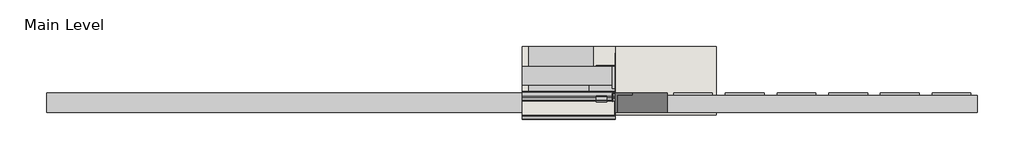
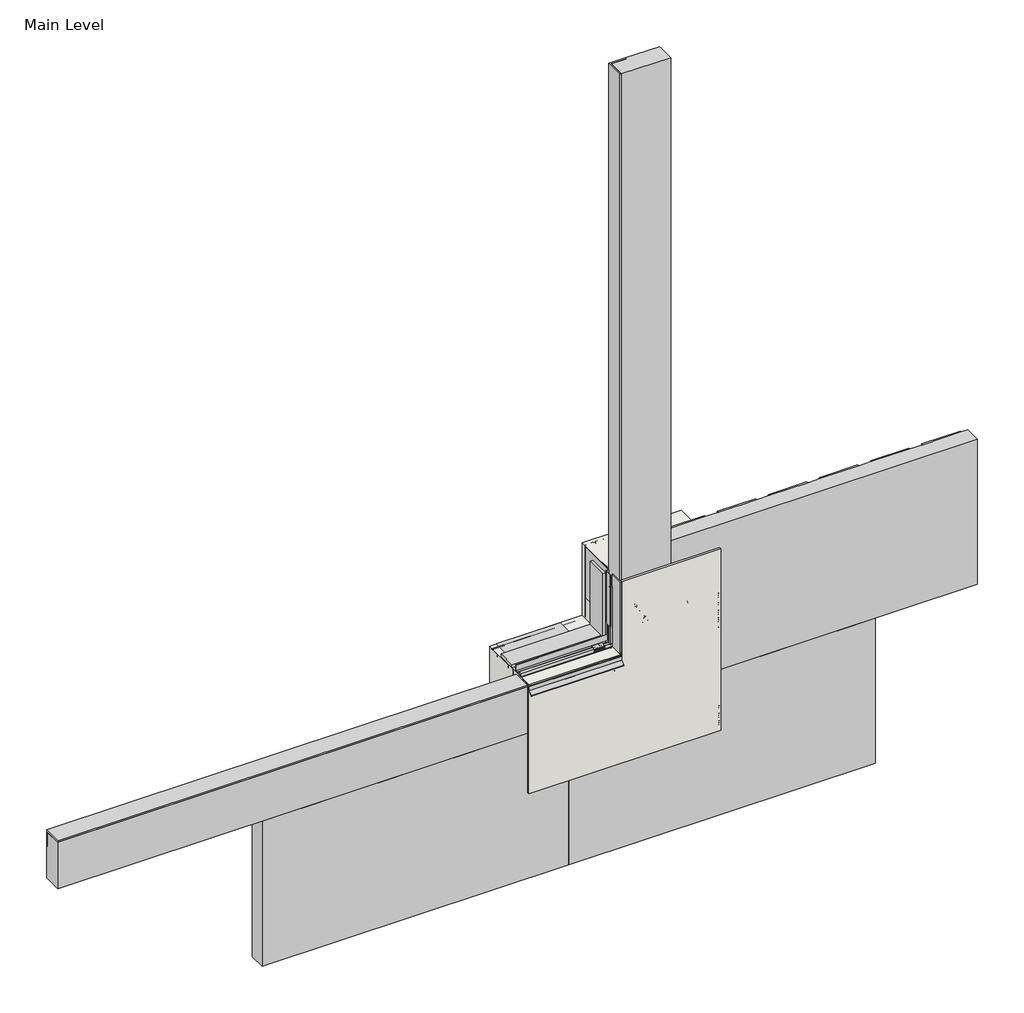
# One storey, incomplete: 26 proxies, 1 wall.
"""IFC4 building model written with IfcOpenShell, lengths in millimetres."""

from ifc_helpers import new_model, si_unit, frame, origin, place, context, project, spatial, polyline, outline, extrude, transform, mapped, element, save
from components import generic_models_31547c53, generic_models_d28646c3, generic_models_4f6b713c, generic_models_388356b2, generic_models_2850309d, generic_models_672f9cdd, generic_models_9b4c3a2c, generic_models_3fb7d6d8, generic_models_8c792c9c, proxy_4c3b85e5, proxy_c7e97176, proxy_8bbb4755, proxy_215900e5, finish_coat_filler_finish_coat_filler_41560683, masonry_sill_masonry_sill_4dd9155f, masonry_sill1_masonry_sill_5b392f48, masonry_sill3_masonry_sill_9eb3d358, masonry_sill4_masonry_sill_9228ef93, proxy_a3fd9b0b, proxy_3a0ad636, proxy_0073da47, proxy_6f3203ff, window_header_window_header_abd4ef46, wood_blocking_5320d369

model = new_model("IFC4")

# Units and contexts
model_context = context("Model", 3, world=origin())
ifc_project = project(units=[si_unit("LENGTHUNIT", "METRE", prefix="MILLI")], contexts=[model_context])

# Site, building, storey
site = spatial("IfcSite", under=ifc_project)
building = spatial("IfcBuilding", under=site)
storey = spatial("IfcBuildingStorey", under=building, Name="Main Level", Elevation=0.0)

# Proxies
placement = place(None, origin())
generic_models_shape = generic_models_31547c53(model_context)
element("IfcBuildingElementProxy", 1, Name="Durabond Generic Model Sealant Vent : Durabond Generic Model Sealant Vent", ObjectType="Durabond Generic Model Sealant Vent : Durabond Generic Model Sealant Vent", at=placement, inside=storey, context=model_context, shape_type="MappedRepresentation", body=[
    mapped(generic_models_shape, transform((26800.7195523, 590.8476543, 464.646745), x_axis=(1.0, 0.0, 0.0), y_axis=(0.0, 0.08715574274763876, -0.9961946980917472), z_axis=(0.0, 0.9961946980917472, 0.08715574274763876))),
])
generic_models_2_shape = generic_models_d28646c3(model_context)
element("IfcBuildingElementProxy", 2, Name="CRAi Generic Model Line Based Drip Deflector : CRAi Generic Model Line Based Drip Deflector", ObjectType="CRAi Generic Model Line Based Drip Deflector : CRAi Generic Model Line Based Drip Deflector", at=placement, inside=storey, context=model_context, shape_type="MappedRepresentation", body=[
    mapped(generic_models_2_shape, transform((26855.8851773, 535.1829375, 451.8088934), x_axis=(0.0, 0.996194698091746, 0.08715574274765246), y_axis=(-1.0, 0.0, 0.0), z_axis=(0.0, -0.0871557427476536, 0.996194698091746))),
])
generic_models_3_shape = generic_models_4f6b713c(model_context)
generic_models_4_shape = generic_models_388356b2(model_context)
generic_models_5_shape = generic_models_2850309d(model_context)
element("IfcBuildingElementProxy", 3, Name="CRAi Generic Model Mesh Piece Face Based : CRAi Generic Model Mesh Piece Face Based", ObjectType="CRAi Generic Model Mesh Piece Face Based : CRAi Generic Model Mesh Piece Face Based", at=placement, inside=storey, context=model_context, shape_type="MappedRepresentation", body=[
    mapped(generic_models_3_shape, transform((27052.7351773, 541.9066297, 504.9011686), x_axis=(-1.0, 0.0, 0.0), y_axis=(0.0, 0.0, -1.0), z_axis=(0.0, -1.0, 0.0))),
    mapped(generic_models_4_shape, transform((27052.7351773, 541.9066297, 504.9011686), x_axis=(-1.0, 0.0, 0.0), y_axis=(0.0, 0.0, -1.0), z_axis=(0.0, -1.0, 0.0))),
    mapped(generic_models_5_shape, transform((27052.7351773, 541.9066297, 504.9011686), x_axis=(-1.0, 0.0, 0.0), y_axis=(0.0, 0.0, -1.0), z_axis=(0.0, -1.0, 0.0))),
])
generic_models_6_shape = generic_models_672f9cdd(model_context)
generic_models_7_shape = generic_models_9b4c3a2c(model_context)
generic_models_8_shape = generic_models_3fb7d6d8(model_context)
element("IfcBuildingElementProxy", 4, Name="CRAi Generic Model Mesh Piece Face Based : CRAi Generic Model Mesh Piece Face Based", ObjectType="CRAi Generic Model Mesh Piece Face Based : CRAi Generic Model Mesh Piece Face Based", at=placement, inside=storey, context=model_context, shape_type="MappedRepresentation", body=[
    mapped(generic_models_6_shape, transform((26990.8226773, 541.9066297, 50.8), x_axis=(-1.0, 0.0, 0.0), y_axis=(0.0, 0.0, -1.0), z_axis=(0.0, -1.0, 0.0))),
    mapped(generic_models_7_shape, transform((26990.8226773, 541.9066297, 50.8), x_axis=(-1.0, 0.0, 0.0), y_axis=(0.0, 0.0, -1.0), z_axis=(0.0, -1.0, 0.0))),
    mapped(generic_models_8_shape, transform((26990.8226773, 541.9066297, 50.8), x_axis=(-1.0, 0.0, 0.0), y_axis=(0.0, 0.0, -1.0), z_axis=(0.0, -1.0, 0.0))),
])
generic_models_9_shape = generic_models_8c792c9c(model_context)
element("IfcBuildingElementProxy", 5, Name="Durabond Generic Model Screw w Standard Wall Plate : Durabond Generic Model Screw w Standard Wall Plate", ObjectType="Durabond Generic Model Screw w Standard Wall Plate : Durabond Generic Model Screw w Standard Wall Plate", at=placement, inside=storey, context=model_context, shape_type="MappedRepresentation", body=[
    mapped(generic_models_9_shape, transform((26925.7351773, 547.4628797, 622.3), x_axis=(1.0, 0.0, 0.0), y_axis=(0.0, 0.0, 1.0), z_axis=(0.0, -1.0, 0.0))),
])
element("IfcBuildingElementProxy", 6, Name="Durabond Generic Model Screw w Standard Wall Plate : Durabond Generic Model Screw w Standard Wall Plate", ObjectType="Durabond Generic Model Screw w Standard Wall Plate : Durabond Generic Model Screw w Standard Wall Plate", at=placement, inside=storey, context=model_context, shape_type="MappedRepresentation", body=[
    mapped(generic_models_9_shape, transform((26957.4851773, 544.2878797, 571.5265593), x_axis=(1.0, 0.0, 0.0), y_axis=(0.0, 0.0, 1.0), z_axis=(0.0, -1.0, 0.0))),
])
element("IfcBuildingElementProxy", 7, Name="Durabond Generic Model Screw w Standard Wall Plate : Durabond Generic Model Screw w Standard Wall Plate", ObjectType="Durabond Generic Model Screw w Standard Wall Plate : Durabond Generic Model Screw w Standard Wall Plate", at=placement, inside=storey, context=model_context, shape_type="MappedRepresentation", body=[
    mapped(generic_models_9_shape, transform((27097.1851773, 547.4628797, 622.3), x_axis=(1.0, 0.0, 0.0), y_axis=(0.0, 0.0, 1.0), z_axis=(0.0, -1.0, 0.0))),
])
element("IfcBuildingElementProxy", 8, Name="Durabond Generic Model Screw w Standard Wall Plate : Durabond Generic Model Screw w Standard Wall Plate", ObjectType="Durabond Generic Model Screw w Standard Wall Plate : Durabond Generic Model Screw w Standard Wall Plate", at=placement, inside=storey, context=model_context, shape_type="MappedRepresentation", body=[
    mapped(generic_models_9_shape, transform((27128.9351773, 544.2878797, 571.5265593), x_axis=(1.0, 0.0, 0.0), y_axis=(0.0, 0.0, 1.0), z_axis=(0.0, -1.0, 0.0))),
])
proxy_shape = proxy_4c3b85e5(model_context)
element("IfcBuildingElementProxy", 9, Name="Durabond Generic Model Insulite Select Extruded Boundary Board : 3\"", ObjectType="Durabond Generic Model Insulite Select Extruded Boundary Board : 3\"", at=placement, inside=storey, context=model_context, shape_type="MappedRepresentation", body=[
    mapped(proxy_shape, transform((25839.8851773, 624.4566297, 349.375778), x_axis=(-1.0, 0.0, 0.0), y_axis=(0.0, 0.0, -1.0), z_axis=(0.0, -1.0, 0.0))),
])
proxy_2_shape = proxy_c7e97176(model_context)
element("IfcBuildingElementProxy", 10, Name="Durabond Generic Model Insulite Select Extruded Boundary Board : 3\"", ObjectType="Durabond Generic Model Insulite Select Extruded Boundary Board : 3\"", at=placement, inside=storey, context=model_context, shape_type="MappedRepresentation", body=[
    mapped(proxy_2_shape, transform((26957.4851773, 624.4566297, 1670.175778), x_axis=(0.0, 0.0, 1.0), y_axis=(-1.0, 0.0, 0.0), z_axis=(0.0, -1.0, 0.0))),
])
proxy_3_shape = proxy_8bbb4755(model_context)
element("IfcBuildingElementProxy", 11, Name="Durabond Generic Model Insulite Select Extruded Insulation Board : 3\"", ObjectType="Durabond Generic Model Insulite Select Extruded Insulation Board : 3\"", at=placement, inside=storey, context=model_context, shape_type="MappedRepresentation", body=[
    mapped(proxy_3_shape, transform((27262.2851773, 624.4566297, -57.024222), x_axis=(1.0, 0.0, 0.0), y_axis=(0.0, 0.0, 1.0), z_axis=(0.0, -1.0, 0.0))),
])
element("IfcBuildingElementProxy", 12, Name="Durabond Generic Model Insulite Select Extruded Insulation Board : 3\"", ObjectType="Durabond Generic Model Insulite Select Extruded Insulation Board : 3\"", at=placement, inside=storey, context=model_context, shape_type="MappedRepresentation", body=[
    mapped(proxy_3_shape, transform((27668.6851773, 624.4566297, 552.575778), x_axis=(1.0, 0.0, 0.0), y_axis=(0.0, 0.0, 1.0), z_axis=(0.0, -1.0, 0.0))),
])
proxy_4_shape = proxy_215900e5(model_context)
element("IfcBuildingElementProxy", 13, Name="Durabond Generic Model Insulite Select Extruded Insulation Board : 3\"", ObjectType="Durabond Generic Model Insulite Select Extruded Insulation Board : 3\"", at=placement, inside=storey, context=model_context, shape_type="MappedRepresentation", body=[
    mapped(proxy_4_shape, transform((26043.0851773, 624.4566297, -57.024222), x_axis=(-1.0, 0.0, 0.0), y_axis=(0.0, 0.0, -1.0), z_axis=(0.0, -1.0, 0.0))),
])
finish_coat_filler_finish_coat_filler_shape = finish_coat_filler_finish_coat_filler_41560683(model_context)
element("IfcBuildingElementProxy", 14, Name="Finish Coat Filler : Finish Coat Filler", ObjectType="Finish Coat Filler : Finish Coat Filler", at=placement, inside=storey, context=model_context, shape_type="MappedRepresentation", body=[
    mapped(finish_coat_filler_finish_coat_filler_shape, transform((0.0, 0.0, 0.0), x_axis=(1.0, 0.0, 0.0), y_axis=(0.0, 1.0, 0.0), z_axis=(0.0, 0.0, 1.0))),
])
masonry_sill_masonry_sill_shape = masonry_sill_masonry_sill_4dd9155f(model_context)
element("IfcBuildingElementProxy", 15, Name="Masonry Sill : Masonry Sill", ObjectType="Masonry Sill : Masonry Sill", at=placement, inside=storey, context=model_context, shape_type="MappedRepresentation", body=[
    mapped(masonry_sill_masonry_sill_shape, transform((0.0, 0.0, 0.0), x_axis=(1.0, 0.0, 0.0), y_axis=(0.0, 1.0, 0.0), z_axis=(0.0, 0.0, 1.0))),
])
masonry_sill1_masonry_sill_shape = masonry_sill1_masonry_sill_5b392f48(model_context)
element("IfcBuildingElementProxy", 16, Name="Masonry Sill1 : Masonry Sill", ObjectType="Masonry Sill1 : Masonry Sill", at=placement, inside=storey, context=model_context, shape_type="MappedRepresentation", body=[
    mapped(masonry_sill1_masonry_sill_shape, transform((0.0, 0.0, 0.0), x_axis=(1.0, 0.0, 0.0), y_axis=(0.0, 1.0, 0.0), z_axis=(0.0, 0.0, 1.0))),
])
masonry_sill3_masonry_sill_shape = masonry_sill3_masonry_sill_9eb3d358(model_context)
element("IfcBuildingElementProxy", 17, Name="Masonry Sill3 : Masonry Sill", ObjectType="Masonry Sill3 : Masonry Sill", at=placement, inside=storey, context=model_context, shape_type="MappedRepresentation", body=[
    mapped(masonry_sill3_masonry_sill_shape, transform((0.0, 0.0, 0.0), x_axis=(1.0, 0.0, 0.0), y_axis=(0.0, 1.0, 0.0), z_axis=(0.0, 0.0, 1.0))),
])
masonry_sill4_masonry_sill_shape = masonry_sill4_masonry_sill_9228ef93(model_context)
element("IfcBuildingElementProxy", 18, Name="Masonry Sill4 : Masonry Sill", ObjectType="Masonry Sill4 : Masonry Sill", at=placement, inside=storey, context=model_context, shape_type="MappedRepresentation", body=[
    mapped(masonry_sill4_masonry_sill_shape, transform((0.0, 0.0, -101.6), x_axis=(1.0, 0.0, 0.0), y_axis=(0.0, 1.0, 0.0), z_axis=(0.0, 0.0, 1.0))),
])
proxy_5_shape = proxy_a3fd9b0b(model_context)
element("IfcBuildingElementProxy", 19, Name="CRAi Generic Model Metal Stud : Metal Framing Stud - 1\" x 3.5\"", ObjectType="CRAi Generic Model Metal Stud : Metal Framing Stud - 1\" x 3.5\"", at=placement, inside=storey, context=model_context, shape_type="MappedRepresentation", body=[
    mapped(proxy_5_shape, transform((26876.5226773, 719.7066297, 0.0), x_axis=(1.0, 0.0, 0.0), y_axis=(0.0, 1.0, 0.0), z_axis=(0.0, 0.0, 1.0))),
])
proxy_6_shape = proxy_3a0ad636(model_context)
element("IfcBuildingElementProxy", 20, Name="CRAi Generic Model Metal Stud : Metal Framing Stud - 1\" x 3.5\"", ObjectType="CRAi Generic Model Metal Stud : Metal Framing Stud - 1\" x 3.5\"", at=placement, inside=storey, context=model_context, shape_type="MappedRepresentation", body=[
    mapped(proxy_6_shape, transform((26876.5226773, 719.7066297, 0.0), x_axis=(1.0, 0.0, 0.0), y_axis=(0.0, 1.0, 0.0), z_axis=(0.0, 0.0, 1.0))),
])
proxy_7_shape = proxy_0073da47(model_context)
element("IfcBuildingElementProxy", 21, Name="CRAi Generic Model Metal Stud : Metal Framing Stud - 1\" x 3.5\"", ObjectType="CRAi Generic Model Metal Stud : Metal Framing Stud - 1\" x 3.5\"", at=placement, inside=storey, context=model_context, shape_type="MappedRepresentation", body=[
    mapped(proxy_7_shape, transform((26914.6226773, 719.7066297, 0.0), x_axis=(-1.0, 0.0, 0.0), y_axis=(0.0, -1.0, 0.0), z_axis=(0.0, 0.0, 1.0))),
])
proxy_8_shape = proxy_6f3203ff(model_context)
element("IfcBuildingElementProxy", 22, Name="CRAi Generic Model Metal Stud : Metal Framing Stud - 1\" x 3.5\"", ObjectType="CRAi Generic Model Metal Stud : Metal Framing Stud - 1\" x 3.5\"", at=placement, inside=storey, context=model_context, shape_type="MappedRepresentation", body=[
    mapped(proxy_8_shape, transform((26508.2226773, 719.7066297, 0.0), x_axis=(-1.0, 0.0, 0.0), y_axis=(0.0, -1.0, 0.0), z_axis=(0.0, 0.0, 1.0))),
])
window_header_window_header_shape = window_header_window_header_abd4ef46(model_context)
element("IfcBuildingElementProxy", 23, Name="Window Header : Window Header", ObjectType="Window Header : Window Header", at=placement, inside=storey, context=model_context, shape_type="MappedRepresentation", body=[
    mapped(window_header_window_header_shape, transform((0.0, -6.35, 0.0), x_axis=(1.0, 0.0, 0.0), y_axis=(0.0, 1.0, 0.0), z_axis=(0.0, 0.0, 1.0))),
])
wood_blocking_shape = wood_blocking_5320d369(model_context)
element("IfcBuildingElementProxy", 24, Name="CRAi Generic Model Line Based Metal Framing Track : Wood Blocking", ObjectType="CRAi Generic Model Line Based Metal Framing Track : Wood Blocking", at=placement, inside=storey, context=model_context, shape_type="MappedRepresentation", body=[
    mapped(wood_blocking_shape, transform((26489.1726773, 643.5066297, 304.8), x_axis=(1.0, 0.0, 0.0), y_axis=(0.0, 1.0, 0.0), z_axis=(0.0, 0.0, 1.0))),
])
element("IfcBuildingElementProxy", 25, Name="CRAi Generic Model Line Based Metal Framing Track : Wood Blocking", ObjectType="CRAi Generic Model Line Based Metal Framing Track : Wood Blocking", at=placement, inside=storey, context=model_context, shape_type="MappedRepresentation", body=[
    mapped(wood_blocking_shape, transform((26489.1726773, 795.907101, 457.2), x_axis=(1.0, 0.0, 0.0), y_axis=(0.0, -1.0, 0.0), z_axis=(0.0, 0.0, -1.0))),
])
element("IfcBuildingElementProxy", 26, Name="CRAi Generic Model Line Based Metal Framing Track : Wood Blocking", ObjectType="CRAi Generic Model Line Based Metal Framing Track : Wood Blocking", at=placement, inside=storey, context=model_context, shape_type="MappedRepresentation", body=[
    mapped(wood_blocking_shape, transform((26489.1726773, 795.9066297, 304.8), x_axis=(1.0, 0.0, 0.0), y_axis=(0.0, -1.0, 0.0), z_axis=(0.0, 0.0, -1.0))),
])

# Wall
element("IfcWall", 27, ObjectType="189mm (7.5”) EIFS Field Applied on Mtl. Stud Layer - 50mm Grooved Insulation Board Metal Stud Wall(AirStop) 2", at=placement, inside=storey, context=model_context, shape_type="SweptSolid", body=[
    extrude(outline(polyline([(0.0, 26489.1726773), (0.0, 27251.1726773), (762.0, 27251.1726773), (762.0, 26857.4726773), (457.2, 26857.4726773), (457.2, 26489.1726773), (0.0, 26489.1726773)])), frame((0.0, 538.7316297, 0.0), z_axis=(0.0, 1.0, 0.0), x_axis=(0.0, 0.0, 1.0)), (0.0, 0.0, 1.0), 269.875),
])

save(model, "model.ifc")
